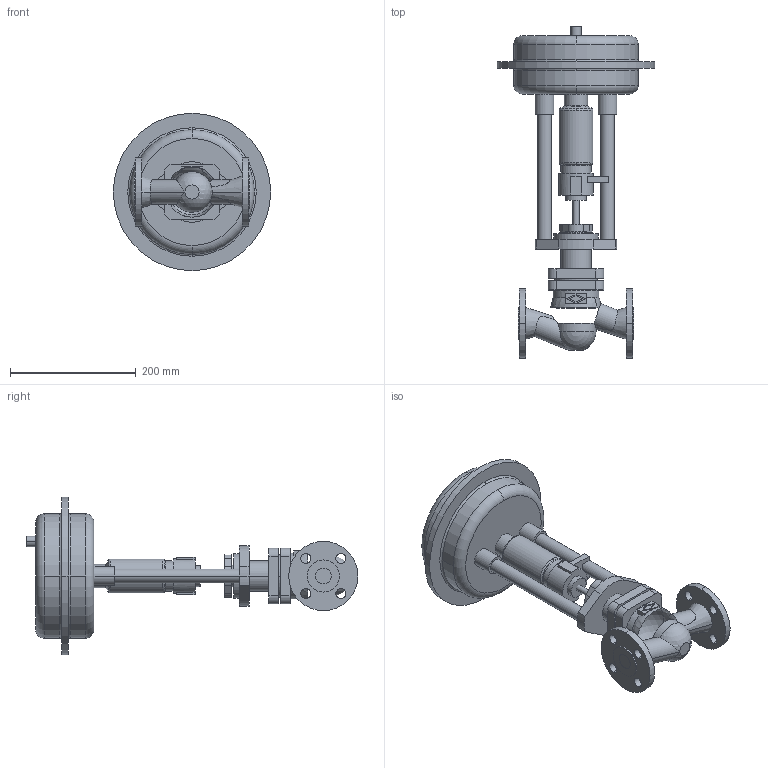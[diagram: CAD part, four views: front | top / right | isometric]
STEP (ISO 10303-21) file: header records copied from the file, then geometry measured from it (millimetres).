
FILE_DESCRIPTION( ( '' ), '1' );
FILE_NAME( 'F:/DE-SHS/TB/OR/04-Sonstiges/daten/files_3d/470-471_ANSI/470_ANSI150/c000005813.stp', '2015-10-22T06:14:22', ( '' ), ( '' ), ' ', ' ', ' ' );
FILE_SCHEMA( ( 'CONFIG_CONTROL_DESIGN' ) );
Length unit declared in the file: millimetre
Products named in the file (2): 1; 2
Bounding box: 250 x 527.5 x 250 mm (x, y, z)
Volume: 4459074.6 mm3; surface area: 365647.2 mm2
Topology: 2 solids, 2 shells, 196 faces, 505 edges, 336 vertices
Faces by surface type: cylinder 90, plane 79, torus 16, cone 8, sphere 3
Entity records: 7012 total; most frequent: CARTESIAN_POINT 1903, DIRECTION 1134, ORIENTED_EDGE 998, EDGE_CURVE 499, AXIS2_PLACEMENT_3D 457, VERTEX_POINT 336, CIRCLE 259, EDGE_LOOP 241
